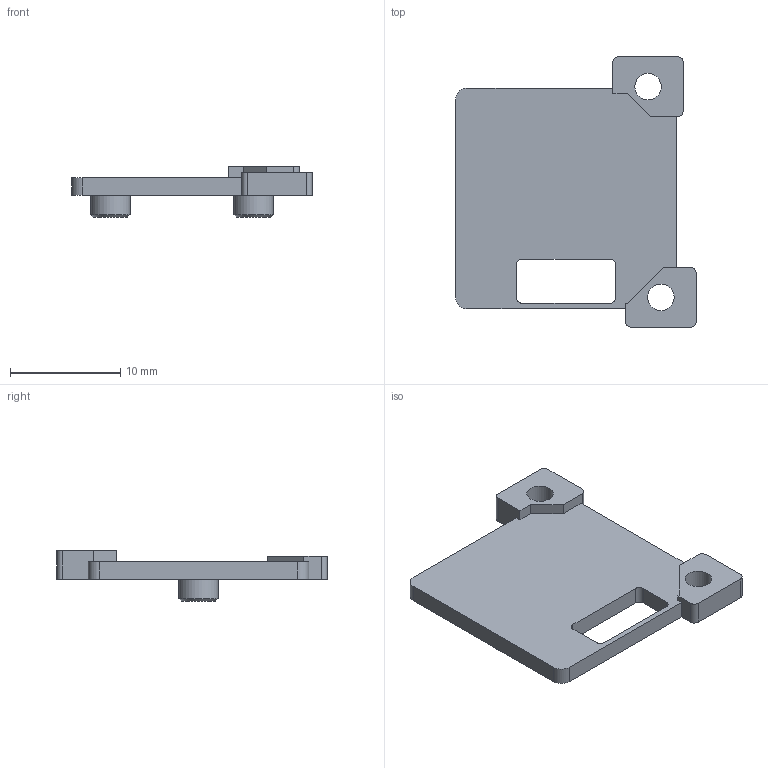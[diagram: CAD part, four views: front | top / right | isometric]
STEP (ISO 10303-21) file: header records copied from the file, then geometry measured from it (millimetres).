
FILE_DESCRIPTION(('Open CASCADE Model'),'2;1');
FILE_NAME('Open CASCADE Shape Model','2026-09-15T22:36:36',('Author'),( 'Open CASCADE'),'Open CASCADE STEP processor 7.9','Open CASCADE 7.9' ,'Unknown');
FILE_SCHEMA(('AUTOMOTIVE_DESIGN { 1 0 10303 214 1 1 1 1 }'));
Length unit declared in the file: millimetre
Products named in the file (1): Open CASCADE STEP translator 7.9 4
Bounding box: 21.81 x 24.52 x 4.6 mm (x, y, z)
Volume: 703.6 mm3; surface area: 1080 mm2
Topology: 1 solids, 1 shells, 44 faces, 118 edges, 78 vertices
Faces by surface type: plane 26, cylinder 16, cone 2
Full cylindrical faces by diameter (mm): 2.4 x2, 3.6 x2
Entity records: 2978 total; most frequent: CARTESIAN_POINT 561, DIRECTION 464, LINE 288, VECTOR 288, ORIENTED_EDGE 236, PCURVE 236, DEFINITIONAL_REPRESENTATION 236, EDGE_CURVE 118
